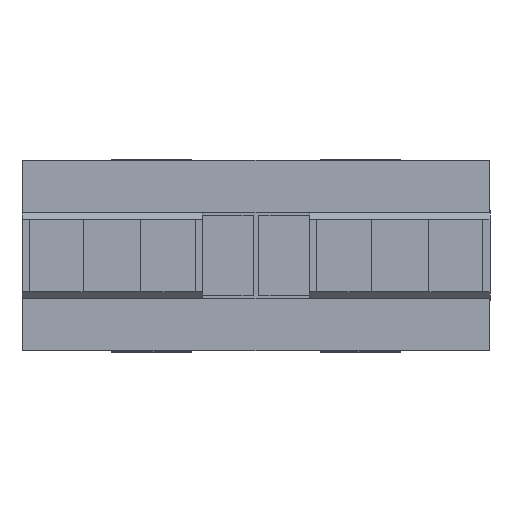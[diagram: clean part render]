
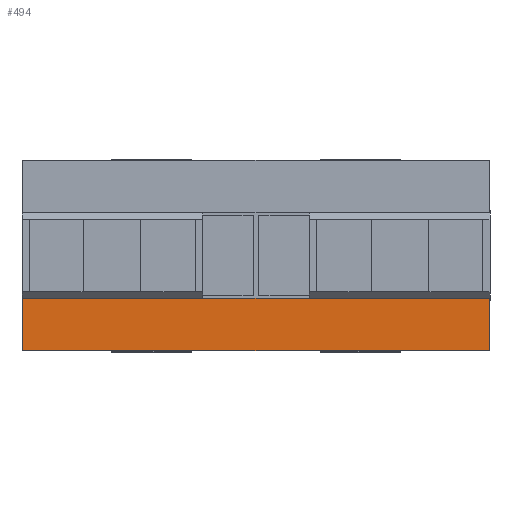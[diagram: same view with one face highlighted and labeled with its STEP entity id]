
A CAD part, top view. The second image highlights one B-rep face of the part: STEP entity #494.
In plain terms, the highlighted planar face has unit normal (0, 0, 1).
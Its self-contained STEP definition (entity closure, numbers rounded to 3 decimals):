
#494 = ADVANCED_FACE( '', ( #1027 ), #1028, .F. );
#1027 = FACE_OUTER_BOUND( '', #1579, .T. );
#1028 = PLANE( '', #1580 );
#1579 = EDGE_LOOP( '', ( #2814, #2815, #2816, #2817 ) );
#1580 = AXIS2_PLACEMENT_3D( '', #2818, #2819, #2820 );
#2814 = ORIENTED_EDGE( '', *, *, #3545, .T. );
#2815 = ORIENTED_EDGE( '', *, *, #3428, .F. );
#2816 = ORIENTED_EDGE( '', *, *, #3579, .F. );
#2817 = ORIENTED_EDGE( '', *, *, #3484, .T. );
#2818 = CARTESIAN_POINT( '', ( 48.5, -8.9, 88. ) );
#2819 = DIRECTION( '', ( 0., 0., -1. ) );
#2820 = DIRECTION( '', ( -1., 0., 0. ) );
#3428 = EDGE_CURVE( '', #4178, #4173, #4180, .T. );
#3484 = EDGE_CURVE( '', #4259, #4257, #4260, .T. );
#3545 = EDGE_CURVE( '', #4257, #4173, #4335, .T. );
#3579 = EDGE_CURVE( '', #4259, #4178, #4374, .T. );
#4173 = VERTEX_POINT( '', #5185 );
#4178 = VERTEX_POINT( '', #5193 );
#4180 = LINE( '', #5196, #5197 );
#4257 = VERTEX_POINT( '', #5300 );
#4259 = VERTEX_POINT( '', #5303 );
#4260 = LINE( '', #5304, #5305 );
#4335 = LINE( '', #5411, #5412 );
#4374 = LINE( '', #5461, #5462 );
#5185 = CARTESIAN_POINT( '', ( -48.5, -19.8, 88. ) );
#5193 = CARTESIAN_POINT( '', ( 48.5, -19.8, 88. ) );
#5196 = CARTESIAN_POINT( '', ( 48.5, -19.8, 88. ) );
#5197 = VECTOR( '', #5893, 1000. );
#5300 = CARTESIAN_POINT( '', ( -48.5, -8.9, 88. ) );
#5303 = CARTESIAN_POINT( '', ( 48.5, -8.9, 88. ) );
#5304 = CARTESIAN_POINT( '', ( 48.5, -8.9, 88. ) );
#5305 = VECTOR( '', #5948, 1000. );
#5411 = CARTESIAN_POINT( '', ( -48.5, -8.9, 88. ) );
#5412 = VECTOR( '', #6001, 1000. );
#5461 = CARTESIAN_POINT( '', ( 48.5, -8.9, 88. ) );
#5462 = VECTOR( '', #6027, 1000. );
#5893 = DIRECTION( '', ( -1., 0., 0. ) );
#5948 = DIRECTION( '', ( -1., 0., 0. ) );
#6001 = DIRECTION( '', ( 0., -1., 0. ) );
#6027 = DIRECTION( '', ( 0., -1., 0. ) );
